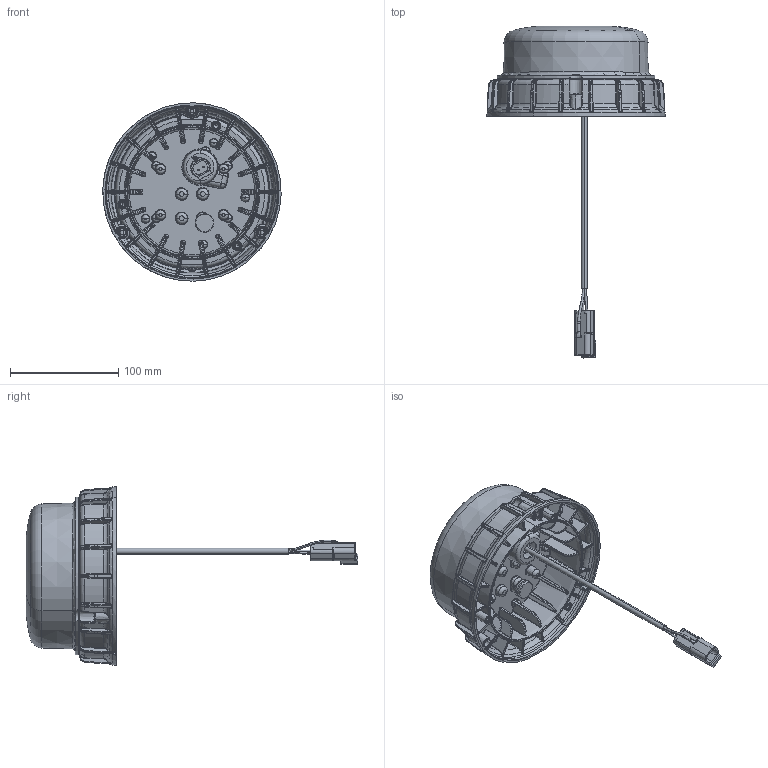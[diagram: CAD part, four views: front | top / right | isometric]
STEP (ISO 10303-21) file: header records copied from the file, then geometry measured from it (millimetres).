
FILE_DESCRIPTION(('CATIA V5 STEP Exchange','CAx-IF Rec.Pracs.--- Model Styling and Organization---1.5--- 2016-08-15','CAx-IF Rec.Pracs.---Supplemental Geometry---1.0---2011-11-01','CAx-IF Rec.Pracs.--- Composite Materials ---1.1---2010-07-15'),'2;1');
FILE_NAME('E:\tmp\ddx\2011221\HELLA_3D_data_K-LED_2-0_magent_2XD 011 557-30.stp','2022-01-18T07:28:58+00:00',('none'),('none'),'CATIA Version 5-6 Release 2020 SP3 HF9','CATIA V5 STEP AP214 Edition 3 v2','none');
FILE_SCHEMA(('AUTOMOTIVE_DESIGN { 1 0 10303 214 3 1 1 1 }'));
Products named in the file (1): 10000960706_D10_001
Bounding box: 164.93 x 306.98 x 164.97 mm (x, y, z)
Volume: 309314.3 mm3; surface area: 224527 mm2
Topology: 2 solids, 3 shells, 4344 faces, 10744 edges, 6240 vertices
Faces by surface type: bspline 1899, plane 740, torus 635, cylinder 525, cone 342, sphere 193, revolution 10
Entity records: 222688 total; most frequent: CARTESIAN_POINT 144922, ORIENTED_EDGE 21070, EDGE_CURVE 10535, DIRECTION 7222, B_SPLINE_CURVE_WITH_KNOTS 6808, VERTEX_POINT 6240, EDGE_LOOP 4547, ADVANCED_FACE 4344
